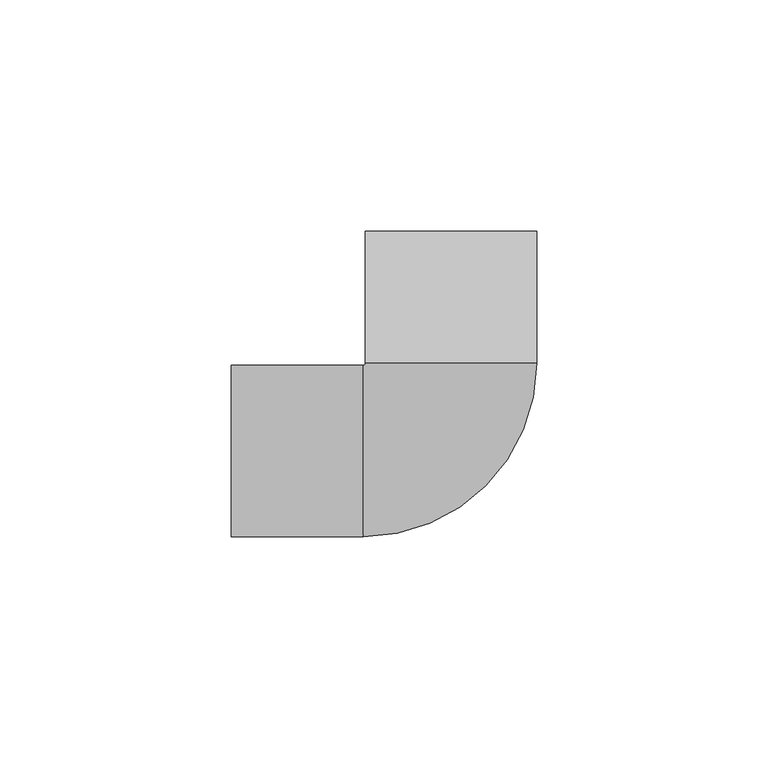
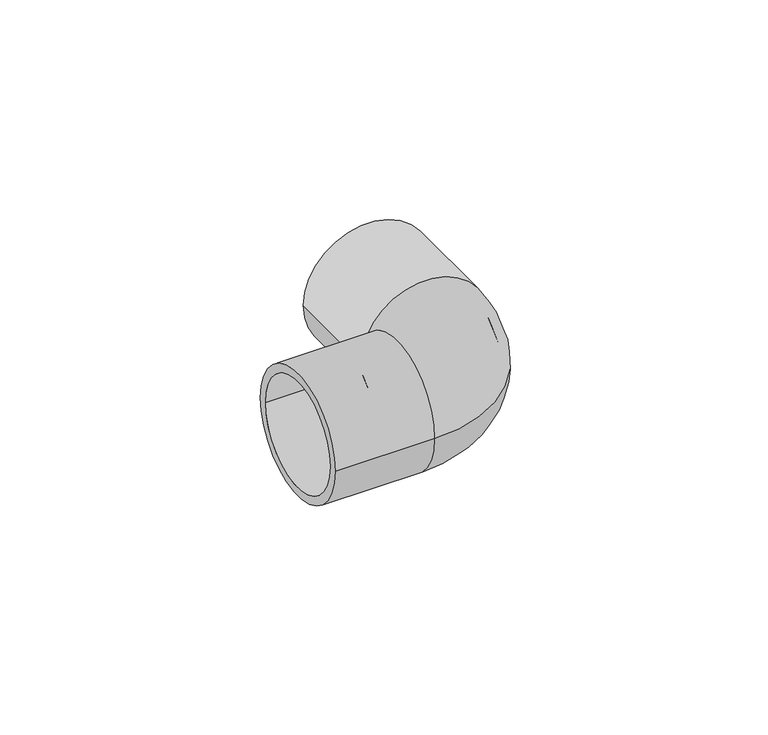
"""IFC4 building model written with IfcOpenShell, lengths in millimetres: cable carrier fitting geometry."""

from ifc_helpers import new_model, si_unit, point, frame, origin, place, context, project, spatial, polyline, circle_curve, ellipse_curve, trimmed, source, transform, mapped, element, save
from ifc_brep_helpers import plane_surface, cylinder_surface, revolved_surface, advanced_brep


def cable_carrier_fitting_741d80a6(model_context):
    return source(origin(), model_context, "Body", "AdvancedBrep", [
        advanced_brep(
        [(16.0, 19.0, 0.0), (-19.0, -16.0, 0.0), (-19.0, 16.0, 0.0), (-16.0, 19.0, 0.0), (18.5, 19.0, 0.0), (-19.0, -18.5, 0.0), (-19.0, 18.5, 0.0), (-18.5, 19.0, 0.0), (18.5, 47.5, 0.0), (-18.5, 47.5, 0.0), (16.0, 47.5, 0.0), (-16.0, 47.5, 0.0), (-47.5, -18.5, 0.0), (-47.5, 18.5, 0.0), (-47.5, -16.0, 0.0), (-47.5, 16.0, 0.0)],
        [
            (0, 1, circle_curve(frame((-19.0, 19.0, 0.0), z_axis=(0.0, 0.0, -1.0), x_axis=(0.0, -1.0, 0.0)), 35.0)),
            (1, 2, circle_curve(frame((-19.0, 0.0, 0.0), z_axis=(-1.0, 0.0, 0.0), x_axis=(0.0, 1.0, 0.0)), 16.0)),
            (2, 3, circle_curve(frame((-19.0, 19.0, 0.0), z_axis=(0.0, 0.0, 1.0), x_axis=(0.0, -1.0, 0.0)), 3.0)),
            (3, 0, circle_curve(frame((0.0, 19.0, 0.0), z_axis=(0.0, 1.0, 0.0), x_axis=(-1.0, 0.0, 0.0)), 16.0)),
            (0, 3, circle_curve(frame((0.0, 19.0, 0.0), z_axis=(0.0, 1.0, 0.0), x_axis=(-1.0, 0.0, 0.0)), 16.0)),
            (2, 1, circle_curve(frame((-19.0, 0.0, 0.0), z_axis=(-1.0, 0.0, 0.0), x_axis=(0.0, 1.0, 0.0)), 16.0)),
            (4, 5, circle_curve(frame((-19.0, 19.0, 0.0), z_axis=(0.0, 0.0, -1.0), x_axis=(0.0, -1.0, 0.0)), 37.5)),
            (5, 6, circle_curve(frame((-19.0, 0.0, 0.0), z_axis=(1.0, 0.0, 0.0), x_axis=(0.0, 1.0, 0.0)), 18.5)),
            (6, 7, circle_curve(frame((-19.0, 19.0, 0.0), z_axis=(0.0, 0.0, 1.0), x_axis=(0.0, -1.0, 0.0)), 0.5)),
            (7, 4, circle_curve(frame((0.0, 19.0, 0.0), z_axis=(0.0, -1.0, 0.0), x_axis=(-1.0, 0.0, 0.0)), 18.5)),
            (4, 7, circle_curve(frame((0.0, 19.0, 0.0), z_axis=(0.0, -1.0, 0.0), x_axis=(-1.0, 0.0, 0.0)), 18.5)),
            (6, 5, circle_curve(frame((-19.0, 0.0, 0.0), z_axis=(1.0, 0.0, 0.0), x_axis=(0.0, 1.0, 0.0)), 18.5)),
            (8, 9, circle_curve(frame((0.0, 47.5, 0.0), z_axis=(0.0, 1.0, 0.0), x_axis=(-1.0, 0.0, 0.0)), 18.5)),
            (9, 8, circle_curve(frame((0.0, 47.5, 0.0), z_axis=(0.0, 1.0, 0.0), x_axis=(-1.0, 0.0, 0.0)), 18.5)),
            (10, 11, circle_curve(frame((0.0, 47.5, 0.0), z_axis=(0.0, -1.0, 0.0), x_axis=(-1.0, 0.0, 0.0)), 16.0)),
            (11, 10, circle_curve(frame((0.0, 47.5, 0.0), z_axis=(0.0, -1.0, 0.0), x_axis=(-1.0, 0.0, 0.0)), 16.0)),
            (9, 7),
            (4, 8),
            (11, 3),
            (0, 10),
            (12, 13, circle_curve(frame((-47.5, 0.0, 0.0), z_axis=(-1.0, 0.0, 0.0), x_axis=(0.0, 1.0, 0.0)), 18.5)),
            (13, 12, circle_curve(frame((-47.5, 0.0, 0.0), z_axis=(-1.0, 0.0, 0.0), x_axis=(0.0, 1.0, 0.0)), 18.5)),
            (14, 15, circle_curve(frame((-47.5, 0.0, 0.0), z_axis=(1.0, 0.0, 0.0), x_axis=(0.0, 1.0, 0.0)), 16.0)),
            (15, 14, circle_curve(frame((-47.5, 0.0, 0.0), z_axis=(1.0, 0.0, 0.0), x_axis=(0.0, 1.0, 0.0)), 16.0)),
            (15, 2),
            (1, 14),
            (13, 6),
            (5, 12),
        ],
        [
            revolved_surface(trimmed(ellipse_curve(frame((-19.0, 0.0, 0.0), z_axis=(1.0, 0.0, 0.0), x_axis=(0.0, 1.0, 0.0)), 16.0, 16.0), [point((-19.0, 16.0, 0.0))], [point((-19.0, -16.0, 0.0))], True, "CARTESIAN"), (-19.0, 19.0, 0.0), (0.0, 0.0, 1.0)),
            revolved_surface(trimmed(ellipse_curve(frame((-19.0, 0.0, 0.0), z_axis=(1.0, 0.0, 0.0), x_axis=(0.0, 1.0, 0.0)), 16.0, 16.0), [point((-19.0, -16.0, 0.0))], [point((-19.0, 16.0, 0.0))], True, "CARTESIAN"), (-19.0, 19.0, 0.0), (0.0, 0.0, 1.0)),
            revolved_surface(trimmed(ellipse_curve(frame((-19.0, 0.0, 0.0), z_axis=(-1.0, 0.0, 0.0), x_axis=(0.0, 1.0, 0.0)), 18.5, 18.5), [point((-19.0, 18.5, 0.0))], [point((-19.0, -18.5, 0.0))], True, "CARTESIAN"), (-19.0, 19.0, 0.0), (0.0, 0.0, 1.0)),
            revolved_surface(trimmed(ellipse_curve(frame((-19.0, 0.0, 0.0), z_axis=(-1.0, 0.0, 0.0), x_axis=(0.0, 1.0, 0.0)), 18.5, 18.5), [point((-19.0, -18.5, 0.0))], [point((-19.0, 18.5, 0.0))], True, "CARTESIAN"), (-19.0, 19.0, 0.0), (0.0, 0.0, 1.0)),
            plane_surface(frame((0.0, 47.5, 0.0), z_axis=(0.0, 1.0, 0.0), x_axis=(0.0, 0.0, 1.0))),
            cylinder_surface(frame((0.0, 19.0, 0.0), z_axis=(0.0, -1.0, 0.0), x_axis=(-1.0, 0.0, 0.0)), 18.5),
            revolved_surface(polyline([(-16.0, 47.5, 0.0), (-16.0, 19.0, 0.0)]), (0.0, 19.0, 0.0), (0.0, 1.0, 0.0)),
            plane_surface(frame((-47.5, 0.0, 0.0), z_axis=(-1.0, 0.0, 0.0), x_axis=(0.0, 0.0, 1.0))),
            revolved_surface(polyline([(-19.0, 16.0, 0.0), (-47.5, 16.0, 0.0)]), (-47.5, 0.0, 0.0), (1.0, 0.0, 0.0)),
            cylinder_surface(frame((-47.5, 0.0, 0.0), z_axis=(-1.0, 0.0, 0.0), x_axis=(0.0, 1.0, 0.0)), 18.5),
        ],
        [
            (0, [[1, 2, 3, 4]]),
            (1, [[-1, 5, -3, 6]]),
            (2, [[7, 8, 9, 10]]),
            (3, [[-7, 11, -9, 12]]),
            (4, [[13, 14], [15, 16]]),
            (5, [[-14, 17, -11, 18]]),
            (5, [[-13, -18, -10, -17]]),
            (6, [[-16, 19, -5, 20]]),
            (6, [[-15, -20, -4, -19]]),
            (7, [[21, 22], [23, 24]]),
            (8, [[-24, 25, -2, 26]]),
            (8, [[-23, -26, -6, -25]]),
            (9, [[-22, 27, -8, 28]]),
            (9, [[-21, -28, -12, -27]]),
        ],
    ),
    ])


if __name__ == "__main__":
    model = new_model("IFC4")
    model_context = context("Model", 3, world=origin())
    ifc_project = project(units=[si_unit("LENGTHUNIT", "METRE", prefix="MILLI")], contexts=[model_context])
    site = spatial("IfcSite", under=ifc_project)
    building = spatial("IfcBuilding", under=site)
    placement = place(None, origin())
    cable_carrier_fitting_shape = cable_carrier_fitting_741d80a6(model_context)
    element("IfcCableCarrierFitting", 1, at=placement, inside=building, context=model_context, shape_type="MappedRepresentation", body=[
        mapped(cable_carrier_fitting_shape, transform((0.0, 0.0, 0.0), x_axis=(1.0, 0.0, 0.0), y_axis=(0.0, 1.0, 0.0), z_axis=(0.0, 0.0, 1.0))),
    ])
    save(model, "model.ifc")
